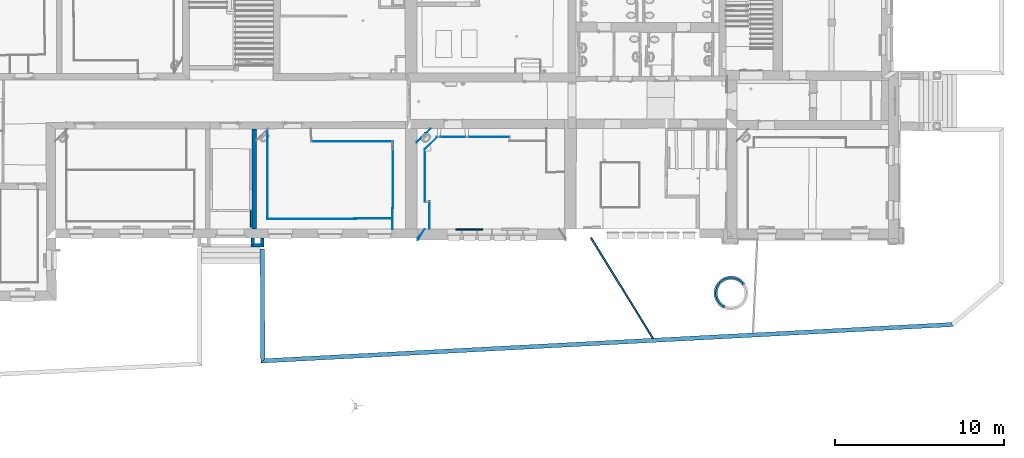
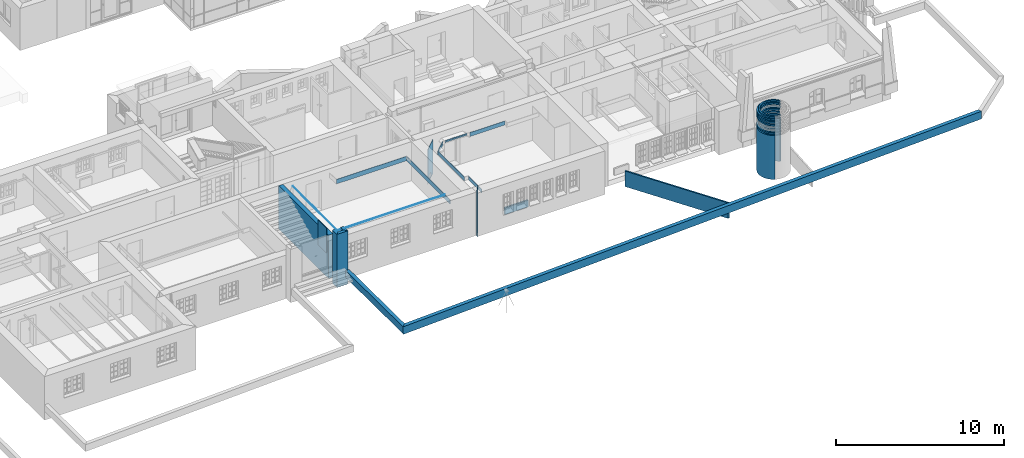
# One storey, part 36 of 196: 31 walls, 1 opening.
"""IFC2X3 building model written with IfcOpenShell, lengths in metres."""

from ifc_helpers import new_model, entity, si_unit, converted_unit, derived_unit, money_unit, point, direction, frame, frame_2d, origin_with_axes, origin_2d_with_axis, place, context, subcontext, project, spatial, polyline, circle_curve, parameter, trimmed, segment, composite_curve, rectangle, outline, extrude, material, layer, layer_set, layer_usage, type_object, element, save


model = new_model("IFC2X3")

# Units and contexts
model_context = context("Model", 3, precision=1e-05, world=origin_with_axes(), true_north=direction((0.0, 1.0)))
body_context = subcontext(model_context, "Body", "Model", "MODEL_VIEW")
ifc_project = project(units=[si_unit("LENGTHUNIT", "METRE"), si_unit("AREAUNIT", "SQUARE_METRE"), si_unit("VOLUMEUNIT", "CUBIC_METRE"), converted_unit("PLANEANGLEUNIT", "DEGREE", entity("IfcPlaneAngleMeasure", 0.0174532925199), si_unit("PLANEANGLEUNIT", "RADIAN"), dimensions=[0, 0, 0, 0, 0, 0, 0]), money_unit("EUR"), converted_unit("TIMEUNIT", "Year", entity("IfcTimeMeasure", 31556926.0), si_unit("TIMEUNIT", "SECOND"), dimensions=[0, 0, 1, 0, 0, 0, 0]), si_unit("MASSUNIT", "GRAM", prefix="KILO"), si_unit("THERMODYNAMICTEMPERATUREUNIT", "DEGREE_CELSIUS"), si_unit("LUMINOUSINTENSITYUNIT", "LUMEN"), si_unit("ENERGYUNIT", "JOULE", prefix="MEGA"), derived_unit("THERMALCONDUCTANCEUNIT", [(si_unit("POWERUNIT", "WATT"), 1), (si_unit("LENGTHUNIT", "METRE"), -1), (si_unit("THERMODYNAMICTEMPERATUREUNIT", "KELVIN"), -1)]), derived_unit("SPECIFICHEATCAPACITYUNIT", [(si_unit("ENERGYUNIT", "JOULE"), 1), (si_unit("MASSUNIT", "GRAM", prefix="KILO"), -1), (si_unit("THERMODYNAMICTEMPERATUREUNIT", "KELVIN"), -1)]), derived_unit("MASSDENSITYUNIT", [(si_unit("MASSUNIT", "GRAM", prefix="KILO"), 1), (si_unit("VOLUMEUNIT", "CUBIC_METRE"), -1)])], contexts=[model_context])

# Site, building, storey
site_placement = place(None, origin_with_axes())
site = spatial("IfcSite", under=ifc_project, at=site_placement, Name="Gelände", CompositionType="ELEMENT")
building_placement = place(site_placement, origin_with_axes())
building = spatial("IfcBuilding", under=site, at=building_placement, Name="Gebäude", CompositionType="ELEMENT")
storey_placement = place(building_placement, frame((0.0, 0.0, -3.0), z_axis=(0.0, 0.0, 1.0), x_axis=(1.0, 0.0, 0.0)))
storey = spatial("IfcBuildingStorey", under=building, at=storey_placement, Name="KELLERGESCHOSS", CompositionType="ELEMENT", Elevation=-3.0)

# Walls
ifc_material_1 = material(Name="05_ALLGEMEIN - TRAGENDE BAUTEILE")
ifc_layer_1 = layer(ifc_material_1, 0.2, ventilated="UNKNOWN")
ifc_layer_set_1 = layer_set([ifc_layer_1], Name="05_ALLGEMEIN - TRAGENDE BAUTEILE 0.2")
ifc_layer_usage_1 = layer_usage(ifc_layer_set_1, "AXIS2", "NEGATIVE", 0.2)
wall_type_1 = type_object("IfcWallType", Name="05_ALLGEMEIN - TRAGENDE BAUTEILE 200", PredefinedType="ELEMENTEDWALL")
wall_1_placement = place(storey_placement, frame((-6.19998406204, 9.93984522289, -0.36), z_axis=(0.0, 0.0, 1.0), x_axis=(0.0219314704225, -0.999759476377, 0.0)))
element("IfcWallStandardCase", 1, at=wall_1_placement, inside=storey, type_object=wall_type_1, material=ifc_layer_usage_1, Name="Wand-032", ObjectType="ELEMENTEDWALL", context=body_context, shape_type="SweptSolid", body=[
    extrude(outline(polyline([(0.0, 0.0), (0.531233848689, 0.0), (0.335496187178, 0.2), (0.00437228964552, 0.2), (0.0, 0.0)])), origin_with_axes(), (0.0, 0.0, 1.0), 3.861435),
])
ifc_layer_2 = layer(ifc_material_1, 0.4, ventilated="UNKNOWN")
ifc_layer_set_2 = layer_set([ifc_layer_2], Name="05_ALLGEMEIN - TRAGENDE BAUTEILE 0.4")
ifc_layer_usage_2 = layer_usage(ifc_layer_set_2, "AXIS2", "NEGATIVE", 0.4)
wall_type_2 = type_object("IfcWallType", Name="05_ALLGEMEIN - TRAGENDE BAUTEILE 400", PredefinedType="ELEMENTEDWALL")
wall_2_placement = place(storey_placement, frame((3.68062058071, 9.94058886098, -0.36), z_axis=(0.0, 0.0, 1.0), x_axis=(-0.00239001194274, -0.999997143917, 0.0)))
element("IfcWallStandardCase", 2, at=wall_2_placement, inside=storey, type_object=wall_type_2, material=ifc_layer_usage_2, Name="Wand-031", ObjectType="ELEMENTEDWALL", context=body_context, shape_type="SweptSolid", body=[
    extrude(outline(polyline([(-0.511443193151, 0.388939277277), (-1.03300346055e-09, 0.0), (0.131170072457, 0.0), (-0.511443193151, 0.388939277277)])), origin_with_axes(), (0.0, 0.0, 1.0), 3.15),
])
ifc_layer_3 = layer(ifc_material_1, 0.1, ventilated="UNKNOWN")
ifc_layer_set_3 = layer_set([ifc_layer_3], Name="05_ALLGEMEIN - TRAGENDE BAUTEILE 0.1")
ifc_layer_usage_3 = layer_usage(ifc_layer_set_3, "AXIS2", "NEGATIVE", 0.1)
wall_type_3 = type_object("IfcWallType", Name="05_ALLGEMEIN - TRAGENDE BAUTEILE 100", PredefinedType="ELEMENTEDWALL")
wall_3_placement = place(storey_placement, frame((23.0245767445, 7.24361396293, 3.79957866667), z_axis=(0.0, 0.0, 1.0), x_axis=(-0.566462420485, 0.824087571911, 0.0)))
element("IfcWallStandardCase", 3, at=wall_3_placement, inside=storey, type_object=wall_type_3, material=ifc_layer_usage_3, Name="Wand-032", ObjectType="ELEMENTEDWALL", context=body_context, shape_type="SweptSolid", body=[
    extrude(outline(composite_curve([segment(trimmed(circle_curve(frame_2d((0.0, 1.00607070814), x_axis=(0.0, -1.0)), 1.00607070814), [point((0.0, 0.0)), parameter(0.0)], [point((-0.503020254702, 1.87736221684)), parameter(209.999007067)], True, "CARTESIAN"), True, "CONTINUOUS"), segment(polyline([(-0.503020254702, 1.87736221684), (-0.453021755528, 1.79075880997)]), True, "CONTINUOUS"), segment(trimmed(circle_curve(frame_2d((0.0, 1.00607070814), x_axis=(0.0, -1.0)), 0.906070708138), [point((-0.453021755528, 1.79075880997)), parameter(209.999007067)], [point((0.0, 0.1)), parameter(0.0)], False, "CARTESIAN"), True, "CONTINUOUS"), segment(polyline([(0.0, 0.1), (0.0, 0.0)]), True, "CONTINUOUS")], self_intersect=False)), origin_with_axes(), (0.0, 0.0, 1.0), 0.1),
])
ifc_layer_usage_4 = layer_usage(ifc_layer_set_3, "AXIS2", "NEGATIVE", 0.1)
wall_4_placement = place(storey_placement, frame((23.0245767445, 7.24361396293, 3.99957866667), z_axis=(0.0, 0.0, 1.0), x_axis=(-0.566462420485, 0.824087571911, 0.0)))
element("IfcWallStandardCase", 4, at=wall_4_placement, inside=storey, type_object=wall_type_3, material=ifc_layer_usage_4, Name="Wand-032", ObjectType="ELEMENTEDWALL", context=body_context, shape_type="SweptSolid", body=[
    extrude(outline(composite_curve([segment(trimmed(circle_curve(frame_2d((0.0, 1.00607070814), x_axis=(0.0, -1.0)), 1.00607070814), [point((0.0, 0.0)), parameter(0.0)], [point((-0.503020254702, 1.87736221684)), parameter(209.999007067)], True, "CARTESIAN"), True, "CONTINUOUS"), segment(polyline([(-0.503020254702, 1.87736221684), (-0.453021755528, 1.79075880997)]), True, "CONTINUOUS"), segment(trimmed(circle_curve(frame_2d((0.0, 1.00607070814), x_axis=(0.0, -1.0)), 0.906070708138), [point((-0.453021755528, 1.79075880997)), parameter(209.999007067)], [point((0.0, 0.1)), parameter(0.0)], False, "CARTESIAN"), True, "CONTINUOUS"), segment(polyline([(0.0, 0.1), (0.0, 0.0)]), True, "CONTINUOUS")], self_intersect=False)), origin_with_axes(), (0.0, 0.0, 1.0), 0.1),
])
ifc_layer_usage_5 = layer_usage(ifc_layer_set_3, "AXIS2", "NEGATIVE", 0.1)
wall_5_placement = place(storey_placement, frame((23.0245767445, 7.24361396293, 4.19957866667), z_axis=(0.0, 0.0, 1.0), x_axis=(-0.566462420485, 0.824087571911, 0.0)))
element("IfcWallStandardCase", 5, at=wall_5_placement, inside=storey, type_object=wall_type_3, material=ifc_layer_usage_5, Name="Wand-032", ObjectType="ELEMENTEDWALL", context=body_context, shape_type="SweptSolid", body=[
    extrude(outline(composite_curve([segment(trimmed(circle_curve(frame_2d((0.0, 1.00607070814), x_axis=(0.0, -1.0)), 1.00607070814), [point((0.0, 0.0)), parameter(0.0)], [point((-0.503020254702, 1.87736221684)), parameter(209.999007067)], True, "CARTESIAN"), True, "CONTINUOUS"), segment(polyline([(-0.503020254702, 1.87736221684), (-0.453021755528, 1.79075880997)]), True, "CONTINUOUS"), segment(trimmed(circle_curve(frame_2d((0.0, 1.00607070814), x_axis=(0.0, -1.0)), 0.906070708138), [point((-0.453021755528, 1.79075880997)), parameter(209.999007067)], [point((0.0, 0.1)), parameter(0.0)], False, "CARTESIAN"), True, "CONTINUOUS"), segment(polyline([(0.0, 0.1), (0.0, 0.0)]), True, "CONTINUOUS")], self_intersect=False)), origin_with_axes(), (0.0, 0.0, 1.0), 0.1),
])
ifc_layer_usage_6 = layer_usage(ifc_layer_set_3, "AXIS2", "NEGATIVE", 0.1)
wall_6_placement = place(storey_placement, frame((23.0245767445, 7.24361396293, 3.19957866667), z_axis=(0.0, 0.0, 1.0), x_axis=(-0.566462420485, 0.824087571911, 0.0)))
element("IfcWallStandardCase", 6, at=wall_6_placement, inside=storey, type_object=wall_type_3, material=ifc_layer_usage_6, Name="Wand-032", ObjectType="ELEMENTEDWALL", context=body_context, shape_type="SweptSolid", body=[
    extrude(outline(composite_curve([segment(trimmed(circle_curve(frame_2d((0.0, 1.00607070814), x_axis=(0.0, -1.0)), 1.00607070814), [point((0.0, 0.0)), parameter(0.0)], [point((-0.503020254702, 1.87736221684)), parameter(209.999007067)], True, "CARTESIAN"), True, "CONTINUOUS"), segment(polyline([(-0.503020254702, 1.87736221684), (-0.453021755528, 1.79075880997)]), True, "CONTINUOUS"), segment(trimmed(circle_curve(frame_2d((0.0, 1.00607070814), x_axis=(0.0, -1.0)), 0.906070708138), [point((-0.453021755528, 1.79075880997)), parameter(209.999007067)], [point((0.0, 0.1)), parameter(0.0)], False, "CARTESIAN"), True, "CONTINUOUS"), segment(polyline([(0.0, 0.1), (0.0, 0.0)]), True, "CONTINUOUS")], self_intersect=False)), origin_with_axes(), (0.0, 0.0, 1.0), 0.1),
])
ifc_layer_usage_7 = layer_usage(ifc_layer_set_3, "AXIS2", "NEGATIVE", 0.1)
wall_7_placement = place(storey_placement, frame((23.0245767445, 7.24361396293, -0.0866233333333), z_axis=(0.0, 0.0, 1.0), x_axis=(-0.566462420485, 0.824087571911, 0.0)))
element("IfcWallStandardCase", 7, at=wall_7_placement, inside=storey, type_object=wall_type_3, material=ifc_layer_usage_7, Name="Wand-032", ObjectType="ELEMENTEDWALL", context=body_context, shape_type="SweptSolid", body=[
    extrude(outline(composite_curve([segment(trimmed(circle_curve(frame_2d((0.0, 1.00607070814), x_axis=(0.0, -1.0)), 1.00607070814), [point((0.0, 0.0)), parameter(0.0)], [point((-0.503020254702, 1.87736221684)), parameter(209.999007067)], True, "CARTESIAN"), True, "CONTINUOUS"), segment(polyline([(-0.503020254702, 1.87736221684), (-0.453021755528, 1.79075880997)]), True, "CONTINUOUS"), segment(trimmed(circle_curve(frame_2d((0.0, 1.00607070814), x_axis=(0.0, -1.0)), 0.906070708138), [point((-0.453021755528, 1.79075880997)), parameter(209.999007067)], [point((0.0, 0.1)), parameter(0.0)], False, "CARTESIAN"), True, "CONTINUOUS"), segment(polyline([(0.0, 0.1), (0.0, 0.0)]), True, "CONTINUOUS")], self_intersect=False)), origin_with_axes(), (0.0, 0.0, 1.0), 3.186202),
])
ifc_layer_usage_8 = layer_usage(ifc_layer_set_3, "AXIS2", "NEGATIVE", 0.1)
wall_8_placement = place(storey_placement, frame((13.8696564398, 9.91902660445, -0.36), z_axis=(0.0, 0.0, 1.0), x_axis=(0.524448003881, -0.851442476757, 0.0)))
element("IfcWallStandardCase", 8, at=wall_8_placement, inside=storey, type_object=wall_type_3, material=ifc_layer_usage_8, Name="Wand-038", ObjectType="ELEMENTEDWALL", context=body_context, shape_type="SweptSolid", body=[
    extrude(outline(polyline([(0.0, 0.0), (6.950225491, 0.0), (7.00477432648, 0.1), (0.0, 0.1), (0.0, 0.0)])), origin_with_axes(), (0.0, 0.0, 1.0), 1.126109),
])
ifc_layer_4 = layer(ifc_material_1, 0.250000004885, ventilated="UNKNOWN")
ifc_layer_set_4 = layer_set([ifc_layer_4], Name="05_ALLGEMEIN - TRAGENDE BAUTEILE 0.25")
ifc_layer_usage_9 = layer_usage(ifc_layer_set_4, "AXIS2", "POSITIVE", 0.0)
wall_type_4 = type_object("IfcWallType", Name="05_ALLGEMEIN - TRAGENDE BAUTEILE 250", PredefinedType="ELEMENTEDWALL")
wall_9_placement = place(storey_placement, frame((35.2243087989, 4.93536301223, 0.212), z_axis=(0.0, 0.0, 1.0), x_axis=(-0.998611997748, -0.0526695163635, 0.0)))
element("IfcWallStandardCase", 9, at=wall_9_placement, inside=storey, type_object=wall_type_4, material=ifc_layer_usage_9, Name="Wand-040", ObjectType="ELEMENTEDWALL", context=body_context, shape_type="SweptSolid", body=[
    extrude(outline(polyline([(0.0, 0.0), (40.6477655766, 0.0), (40.9097281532, 0.25), (-0.0838657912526, 0.25), (0.0, 0.0)])), origin_with_axes(), (0.0, 0.0, 1.0), 0.55),
])
ifc_layer_usage_10 = layer_usage(ifc_layer_set_4, "AXIS2", "NEGATIVE", 0.0)
wall_10_placement = place(storey_placement, frame((-5.40581075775, 9.28887103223, 0.262), z_axis=(0.0, 0.0, 1.0), x_axis=(0.00597013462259, -0.999982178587, 0.0)))
element("IfcWallStandardCase", 10, at=wall_10_placement, inside=storey, type_object=wall_type_4, material=ifc_layer_usage_10, Name="Wand-041", ObjectType="ELEMENTEDWALL", context=body_context, shape_type="SweptSolid", body=[
    extrude(outline(polyline([(0.0, -0.25), (6.75648449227, -0.25), (6.49452191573, 0.0), (0.0, 0.0), (0.0, -0.25)])), origin_with_axes(), (0.0, 0.0, 1.0), 0.5),
])
ifc_layer_5 = layer(ifc_material_1, 0.29, ventilated="UNKNOWN")
ifc_layer_set_5 = layer_set([ifc_layer_5], Name="05_ALLGEMEIN - TRAGENDE BAUTEILE 0.29")
ifc_layer_usage_11 = layer_usage(ifc_layer_set_5, "AXIS2", "POSITIVE", 0.0)
wall_type_5 = type_object("IfcWallType", Name="05_ALLGEMEIN - TRAGENDE BAUTEILE 290", PredefinedType="ELEMENTEDWALL")
wall_11_placement = place(storey_placement, frame((-6.14812390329, 16.8014977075, -0.36), z_axis=(0.0, 0.0, 1.0), x_axis=(0.000177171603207, -0.999999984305, 0.0)))
element("IfcWallStandardCase", 11, at=wall_11_placement, inside=storey, type_object=wall_type_5, material=ifc_layer_usage_11, Name="Wand-035", ObjectType="ELEMENTEDWALL", context=body_context, shape_type="SweptSolid", body=[
    extrude(outline(polyline([(0.410000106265, 0.0), (6.33664859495, 0.0), (6.33667814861, 0.29), (0.409791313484, 0.29), (0.410000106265, 0.0)])), origin_with_axes(), (0.0, 0.0, 1.0), 3.15),
])

# Wall, opening
ifc_material_2 = material(Name="43_Gipskarton")
ifc_layer_6 = layer(ifc_material_2, 0.03, ventilated="UNKNOWN")
ifc_layer_set_6 = layer_set([ifc_layer_6], Name="43_Gipskarton 0.03")
ifc_layer_usage_12 = layer_usage(ifc_layer_set_6, "AXIS2", "NEGATIVE", 0.03)
wall_type_6 = type_object("IfcWallType", Name="43_Gipskarton 30", PredefinedType="ELEMENTEDWALL")
wall_12_placement = place(storey_placement, frame((3.61046248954, 15.574769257, -0.04), z_axis=(0.0, 0.0, 1.0), x_axis=(0.709526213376, 0.704679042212, 0.0)))
wall_12 = element("IfcWallStandardCase", 12, at=wall_12_placement, inside=storey, type_object=wall_type_6, material=ifc_layer_usage_12, Name="Wand-034", ObjectType="ELEMENTEDWALL", context=body_context, shape_type="SweptSolid", body=[
    extrude(outline(polyline([(0.0, 0.0), (1.17334228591, 0.0), (1.14303808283, 0.03), (0.029743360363, 0.03), (0.0, 0.0)])), origin_with_axes(), (0.0, 0.0, 1.0), 2.48),
])
opening_placement = place(wall_12_placement, frame((0.579997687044, 0.0, 0.112300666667), z_axis=(0.0, 0.0, 1.0), x_axis=(1.0, 0.0, 0.0)))
element("IfcOpeningElement", 13, at=opening_placement, cuts=wall_12, Name="Tür-022", context=body_context, shape_type="SweptSolid", body=[
    extrude(rectangle(XDim=0.306104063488, YDim=0.293476, at=origin_2d_with_axis()), frame((0.0, 0.03, 0.146738), z_axis=(0.0, -1.0, 0.0), x_axis=(-1.0, 0.0, 0.0)), (0.0, 0.0, 1.0), 0.09),
])

# Walls
ifc_layer_usage_13 = layer_usage(ifc_layer_set_6, "AXIS2", "NEGATIVE", 0.0)
wall_13_placement = place(storey_placement, frame((-5.19969785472, 16.3626432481, 2.43), z_axis=(0.0, 0.0, 1.0), x_axis=(-0.000308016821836, -0.999999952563, 0.0)))
element("IfcWallStandardCase", 14, at=wall_13_placement, inside=storey, type_object=wall_type_6, material=ifc_layer_usage_13, Name="Wand-060", ObjectType="ELEMENTEDWALL", context=body_context, shape_type="SweptSolid", body=[
    extrude(outline(polyline([(0.0303318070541, -0.03), (5.31714866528, -0.03), (5.28708466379, 0.0), (0.0, 0.0), (0.0303318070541, -0.03)])), origin_with_axes(), (0.0, 0.0, 1.0), 0.03),
])
ifc_layer_usage_14 = layer_usage(ifc_layer_set_6, "AXIS2", "NEGATIVE", 0.0)
wall_14_placement = place(storey_placement, frame((-5.20132636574, 11.0755588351, 2.43), z_axis=(0.0, 0.0, 1.0), x_axis=(0.999998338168, 0.00182309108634, 0.0)))
element("IfcWallStandardCase", 15, at=wall_14_placement, inside=storey, type_object=wall_type_6, material=ifc_layer_usage_14, Name="Wand-061", ObjectType="ELEMENTEDWALL", context=body_context, shape_type="SweptSolid", body=[
    extrude(outline(polyline([(-0.030064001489, -0.03), (7.37356726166, -0.03), (7.37374219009, 0.0), (0.0, 0.0), (-0.030064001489, -0.03)])), origin_with_axes(), (0.0, 0.0, 1.0), 0.03),
])
ifc_layer_usage_15 = layer_usage(ifc_layer_set_6, "AXIS2", "NEGATIVE", 0.0)
wall_15_placement = place(storey_placement, frame((2.16988455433, 10.4604751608, 2.14), z_axis=(0.0, 0.0, 1.0), x_axis=(0.00400777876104, 0.999991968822, 0.0)))
element("IfcWallStandardCase", 16, at=wall_15_placement, inside=storey, type_object=wall_type_6, material=ifc_layer_usage_15, Name="Wand-062", ObjectType="ELEMENTEDWALL", context=body_context, shape_type="SweptSolid", body=[
    extrude(outline(polyline([(0.0, -0.03), (5.19547315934, -0.03), (5.16535736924, 0.0), (0.0, 0.0), (0.0, -0.03)])), origin_with_axes(), (0.0, 0.0, 1.0), 0.32),
])
ifc_layer_usage_16 = layer_usage(ifc_layer_set_6, "AXIS2", "NEGATIVE", 0.0)
wall_16_placement = place(storey_placement, frame((2.19058616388, 15.6257910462, 2.14), z_axis=(0.0, 0.0, 1.0), x_axis=(-0.999999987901, 0.000155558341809, 0.0)))
element("IfcWallStandardCase", 17, at=wall_16_placement, inside=storey, type_object=wall_type_6, material=ifc_layer_usage_16, Name="Wand-063", ObjectType="ELEMENTEDWALL", context=body_context, shape_type="SweptSolid", body=[
    extrude(outline(polyline([(-0.0301157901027, -0.03), (4.80096117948, -0.03), (4.83040848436, 0.0), (0.0, 0.0), (-0.0301157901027, -0.03)])), origin_with_axes(), (0.0, 0.0, 1.0), 0.32),
])
ifc_layer_usage_17 = layer_usage(ifc_layer_set_6, "AXIS2", "NEGATIVE", 0.0)
wall_17_placement = place(storey_placement, frame((9.08074599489, 15.8971173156, 2.15545783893), z_axis=(0.0, 0.0, 1.0), x_axis=(-0.999998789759, -0.00155578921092, 0.0)))
element("IfcWallStandardCase", 18, at=wall_17_placement, inside=storey, type_object=wall_type_6, material=ifc_layer_usage_17, Name="Wand-067", ObjectType="ELEMENTEDWALL", context=body_context, shape_type="SweptSolid", body=[
    extrude(outline(polyline([(-0.0301379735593, -0.03), (2.40129116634, -0.03), (2.40129116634, 0.0), (0.0, 0.0), (-0.0301379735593, -0.03)])), origin_with_axes(), (0.0, 0.0, 1.0), 0.284542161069),
])
ifc_layer_usage_18 = layer_usage(ifc_layer_set_6, "AXIS2", "NEGATIVE", 0.0)
wall_18_placement = place(storey_placement, frame((6.4800885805, 15.8930712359, 2.32), z_axis=(0.0, 0.0, 1.0), x_axis=(-0.999998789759, -0.00155578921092, 0.0)))
element("IfcWallStandardCase", 19, at=wall_18_placement, inside=storey, type_object=wall_type_6, material=ifc_layer_usage_18, Name="Wand-067", ObjectType="ELEMENTEDWALL", context=body_context, shape_type="SweptSolid", body=[
    extrude(outline(polyline([(0.0, -0.03), (1.48246077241, -0.03), (1.48246077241, 0.0), (0.0, 0.0), (0.0, -0.03)])), origin_with_axes(), (0.0, 0.0, 1.0), 0.12),
])
ifc_layer_usage_19 = layer_usage(ifc_layer_set_6, "AXIS2", "NEGATIVE", 0.0)
wall_19_placement = place(storey_placement, frame((4.81853001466, 15.8904861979, 2.18), z_axis=(0.0, 0.0, 1.0), x_axis=(-0.711544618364, -0.702640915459, 0.0)))
element("IfcWallStandardCase", 20, at=wall_19_placement, inside=storey, type_object=wall_type_6, material=ifc_layer_usage_19, Name="Wand-068", ObjectType="ELEMENTEDWALL", context=body_context, shape_type="SweptSolid", body=[
    extrude(outline(polyline([(-0.0122886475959, -0.03), (1.00664492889, -0.03), (0.994077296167, 0.0), (0.0, 0.0), (-0.0122886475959, -0.03)])), origin_with_axes(), (0.0, 0.0, 1.0), 0.26),
])
ifc_layer_usage_20 = layer_usage(ifc_layer_set_6, "AXIS2", "NEGATIVE", 0.0)
wall_20_placement = place(storey_placement, frame((4.11119966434, 15.1920068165, 2.18), z_axis=(0.0, 0.0, 1.0), x_axis=(0.00172694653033, -0.999998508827, 0.0)))
element("IfcWallStandardCase", 21, at=wall_20_placement, inside=storey, type_object=wall_type_6, material=ifc_layer_usage_20, Name="Wand-069", ObjectType="ELEMENTEDWALL", context=body_context, shape_type="SweptSolid", body=[
    extrude(outline(polyline([(-0.0125676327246, -0.03), (3.1318552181, -0.03), (3.10179593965, 0.0), (0.0, 0.0), (-0.0125676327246, -0.03)])), origin_with_axes(), (0.0, 0.0, 1.0), 0.26),
])
ifc_layer_usage_21 = layer_usage(ifc_layer_set_6, "AXIS2", "NEGATIVE", 0.0)
wall_21_placement = place(storey_placement, frame((4.38757851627, 12.0912185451, 2.18), z_axis=(0.0, 0.0, 1.0), x_axis=(-0.00152869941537, -0.999998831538, 0.0)))
element("IfcWallStandardCase", 22, at=wall_21_placement, inside=storey, type_object=wall_type_6, material=ifc_layer_usage_21, Name="Wand-071", ObjectType="ELEMENTEDWALL", context=body_context, shape_type="SweptSolid", body=[
    extrude(outline(polyline([(0.0301573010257, -0.03), (1.6219239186, -0.03), (1.6219239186, 0.0), (0.0, 0.0), (0.0301573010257, -0.03)])), origin_with_axes(), (0.0, 0.0, 1.0), 0.26),
])
ifc_material_3 = material(Name="01_ALLGEMEIN - BAUTEIL")
ifc_layer_7 = layer(ifc_material_3, 0.105, ventilated="UNKNOWN")
ifc_layer_set_7 = layer_set([ifc_layer_7], Name="01_ALLGEMEIN - BAUTEIL 0.105")
ifc_layer_usage_22 = layer_usage(ifc_layer_set_7, "AXIS2", "NEGATIVE", 0.105)
wall_type_7 = type_object("IfcWallType", Name="01_ALLGEMEIN - BAUTEIL 105", PredefinedType="ELEMENTEDWALL")
wall_22_placement = place(storey_placement, frame((7.50408036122, 10.4878806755, 0.104421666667), z_axis=(0.0, 0.0, 1.0), x_axis=(-0.999994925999, -0.00318558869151, 0.0)))
element("IfcWallStandardCase", 23, at=wall_22_placement, inside=storey, type_object=wall_type_7, material=ifc_layer_usage_22, Name="Wand-035", ObjectType="ELEMENTEDWALL", context=body_context, shape_type="SweptSolid", body=[
    extrude(outline(polyline([(0.0, 0.0), (1.59342253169, 0.0), (1.59342253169, 0.105), (0.0, 0.105), (0.0, 0.0)])), origin_with_axes(), (0.0, 0.0, 1.0), 0.498833),
])
ifc_layer_8 = layer(ifc_material_3, 0.065, ventilated="UNKNOWN")
ifc_layer_set_8 = layer_set([ifc_layer_8], Name="01_ALLGEMEIN - BAUTEIL 0.065")
ifc_layer_usage_23 = layer_usage(ifc_layer_set_8, "AXIS2", "NEGATIVE", 0.065)
wall_type_8 = type_object("IfcWallType", Name="01_ALLGEMEIN - BAUTEIL 65", PredefinedType="ELEMENTEDWALL")
wall_23_placement = place(storey_placement, frame((-6.24760502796, 11.5577597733, 1.47594966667), z_axis=(0.0, 0.0, 1.0), x_axis=(0.00354043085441, -0.999993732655, 0.0)))
element("IfcWallStandardCase", 24, at=wall_23_placement, inside=storey, type_object=wall_type_8, material=ifc_layer_usage_23, Name="Wand-036", ObjectType="ELEMENTEDWALL", context=body_context, shape_type="SweptSolid", body=[
    extrude(outline(polyline([(0.0, 0.0), (0.98585845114, 0.0), (0.98585845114, 0.065), (0.0, 0.065), (0.0, 0.0)])), origin_with_axes(), (0.0, 0.0, 1.0), 1.797355),
])
ifc_layer_9 = layer(ifc_material_3, 0.2, ventilated="UNKNOWN")
ifc_layer_set_9 = layer_set([ifc_layer_9], Name="01_ALLGEMEIN - BAUTEIL 0.2")
ifc_layer_usage_24 = layer_usage(ifc_layer_set_9, "AXIS2", "NEGATIVE", 0.2)
wall_type_9 = type_object("IfcWallType", Name="01_ALLGEMEIN - BAUTEIL 200", PredefinedType="ELEMENTEDWALL")
wall_24_placement = place(storey_placement, frame((-5.43161314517, 9.4090364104, -0.36), z_axis=(0.0, 0.0, 1.0), x_axis=(-7.52624069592e-05, 0.999999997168, 0.0)))
element("IfcWallStandardCase", 25, at=wall_24_placement, inside=storey, type_object=wall_type_9, material=ifc_layer_usage_24, Name="Wand-032", ObjectType="ELEMENTEDWALL", context=body_context, shape_type="SweptSolid", body=[
    extrude(outline(polyline([(0.0, 0.0), (0.530866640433, 0.0), (0.530866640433, 0.2), (0.199936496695, 0.2), (0.0, 0.0)])), origin_with_axes(), (0.0, 0.0, 1.0), 3.861435),
])
ifc_layer_usage_25 = layer_usage(ifc_layer_set_9, "AXIS2", "NEGATIVE", 0.2)
wall_25_placement = place(storey_placement, frame((-6.1883333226, 9.40873914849, -0.36), z_axis=(0.0, 0.0, 1.0), x_axis=(0.999999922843, 0.000392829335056, 0.0)))
element("IfcWallStandardCase", 26, at=wall_25_placement, inside=storey, type_object=wall_type_9, material=ifc_layer_usage_25, Name="Wand-033", ObjectType="ELEMENTEDWALL", context=body_context, shape_type="SweptSolid", body=[
    extrude(outline(polyline([(0.0, 0.0), (0.756720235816, 0.0), (0.556783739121, 0.2), (0.195737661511, 0.2), (0.0, 0.0)])), origin_with_axes(), (0.0, 0.0, 1.0), 3.861435),
])
ifc_layer_10 = layer(ifc_material_3, 0.1, ventilated="UNKNOWN")
ifc_layer_set_10 = layer_set([ifc_layer_10], Name="01_ALLGEMEIN - BAUTEIL 0.1")
ifc_layer_usage_26 = layer_usage(ifc_layer_set_10, "AXIS2", "NEGATIVE", 0.1)
wall_type_10 = type_object("IfcWallType", Name="01_ALLGEMEIN - BAUTEIL 100", PredefinedType="ELEMENTEDWALL")
wall_26_placement = place(storey_placement, frame((22.9421679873, 7.18696772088, 4.09957866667), z_axis=(0.0, 0.0, 1.0), x_axis=(-0.566462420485, 0.824087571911, 0.0)))
element("IfcWallStandardCase", 27, at=wall_26_placement, inside=storey, type_object=wall_type_10, material=ifc_layer_usage_26, Name="Wand-032", ObjectType="ELEMENTEDWALL", context=body_context, shape_type="SweptSolid", body=[
    extrude(outline(composite_curve([segment(trimmed(circle_curve(frame_2d((0.0, 0.906070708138), x_axis=(0.0, -1.0)), 0.906070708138), [point((0.0, 0.0)), parameter(0.0)], [point((-0.453021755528, 1.69075880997)), parameter(209.999007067)], True, "CARTESIAN"), True, "CONTINUOUS"), segment(polyline([(-0.453021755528, 1.69075880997), (-0.403023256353, 1.60415540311)]), True, "CONTINUOUS"), segment(trimmed(circle_curve(frame_2d((0.0, 0.906070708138), x_axis=(0.0, -1.0)), 0.806070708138), [point((-0.403023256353, 1.60415540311)), parameter(209.999007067)], [point((0.0, 0.1)), parameter(0.0)], False, "CARTESIAN"), True, "CONTINUOUS"), segment(polyline([(0.0, 0.1), (0.0, 0.0)]), True, "CONTINUOUS")], self_intersect=False)), origin_with_axes(), (0.0, 0.0, 1.0), 0.1),
])
ifc_layer_usage_27 = layer_usage(ifc_layer_set_10, "AXIS2", "NEGATIVE", 0.1)
wall_27_placement = place(storey_placement, frame((22.9421679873, 7.18696772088, 4.29957866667), z_axis=(0.0, 0.0, 1.0), x_axis=(-0.566462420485, 0.824087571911, 0.0)))
element("IfcWallStandardCase", 28, at=wall_27_placement, inside=storey, type_object=wall_type_10, material=ifc_layer_usage_27, Name="Wand-032", ObjectType="ELEMENTEDWALL", context=body_context, shape_type="SweptSolid", body=[
    extrude(outline(composite_curve([segment(trimmed(circle_curve(frame_2d((0.0, 0.906070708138), x_axis=(0.0, -1.0)), 0.906070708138), [point((0.0, 0.0)), parameter(0.0)], [point((-0.453021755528, 1.69075880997)), parameter(209.999007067)], True, "CARTESIAN"), True, "CONTINUOUS"), segment(polyline([(-0.453021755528, 1.69075880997), (-0.403023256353, 1.60415540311)]), True, "CONTINUOUS"), segment(trimmed(circle_curve(frame_2d((0.0, 0.906070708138), x_axis=(0.0, -1.0)), 0.806070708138), [point((-0.403023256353, 1.60415540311)), parameter(209.999007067)], [point((0.0, 0.1)), parameter(0.0)], False, "CARTESIAN"), True, "CONTINUOUS"), segment(polyline([(0.0, 0.1), (0.0, 0.0)]), True, "CONTINUOUS")], self_intersect=False)), origin_with_axes(), (0.0, 0.0, 1.0), 0.1),
])
ifc_layer_usage_28 = layer_usage(ifc_layer_set_10, "AXIS2", "NEGATIVE", 0.1)
wall_28_placement = place(storey_placement, frame((22.9421679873, 7.18696772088, 3.69957866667), z_axis=(0.0, 0.0, 1.0), x_axis=(-0.566462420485, 0.824087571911, 0.0)))
element("IfcWallStandardCase", 29, at=wall_28_placement, inside=storey, type_object=wall_type_10, material=ifc_layer_usage_28, Name="Wand-032", ObjectType="ELEMENTEDWALL", context=body_context, shape_type="SweptSolid", body=[
    extrude(outline(composite_curve([segment(trimmed(circle_curve(frame_2d((0.0, 0.906070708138), x_axis=(0.0, -1.0)), 0.906070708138), [point((0.0, 0.0)), parameter(0.0)], [point((-0.453021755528, 1.69075880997)), parameter(209.999007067)], True, "CARTESIAN"), True, "CONTINUOUS"), segment(polyline([(-0.453021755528, 1.69075880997), (-0.403023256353, 1.60415540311)]), True, "CONTINUOUS"), segment(trimmed(circle_curve(frame_2d((0.0, 0.906070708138), x_axis=(0.0, -1.0)), 0.806070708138), [point((-0.403023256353, 1.60415540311)), parameter(209.999007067)], [point((0.0, 0.1)), parameter(0.0)], False, "CARTESIAN"), True, "CONTINUOUS"), segment(polyline([(0.0, 0.1), (0.0, 0.0)]), True, "CONTINUOUS")], self_intersect=False)), origin_with_axes(), (0.0, 0.0, 1.0), 0.1),
])
ifc_layer_usage_29 = layer_usage(ifc_layer_set_10, "AXIS2", "NEGATIVE", 0.1)
wall_29_placement = place(storey_placement, frame((22.9421679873, 7.18696772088, 3.09957866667), z_axis=(0.0, 0.0, 1.0), x_axis=(-0.566462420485, 0.824087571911, 0.0)))
element("IfcWallStandardCase", 30, at=wall_29_placement, inside=storey, type_object=wall_type_10, material=ifc_layer_usage_29, Name="Wand-032", ObjectType="ELEMENTEDWALL", context=body_context, shape_type="SweptSolid", body=[
    extrude(outline(composite_curve([segment(trimmed(circle_curve(frame_2d((0.0, 0.906070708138), x_axis=(0.0, -1.0)), 0.906070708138), [point((0.0, 0.0)), parameter(0.0)], [point((-0.453021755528, 1.69075880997)), parameter(209.999007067)], True, "CARTESIAN"), True, "CONTINUOUS"), segment(polyline([(-0.453021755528, 1.69075880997), (-0.403023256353, 1.60415540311)]), True, "CONTINUOUS"), segment(trimmed(circle_curve(frame_2d((0.0, 0.906070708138), x_axis=(0.0, -1.0)), 0.806070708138), [point((-0.403023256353, 1.60415540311)), parameter(209.999007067)], [point((0.0, 0.1)), parameter(0.0)], False, "CARTESIAN"), True, "CONTINUOUS"), segment(polyline([(0.0, 0.1), (0.0, 0.0)]), True, "CONTINUOUS")], self_intersect=False)), origin_with_axes(), (0.0, 0.0, 1.0), 0.1),
])
ifc_layer_usage_30 = layer_usage(ifc_layer_set_10, "AXIS2", "NEGATIVE", 0.1)
wall_30_placement = place(storey_placement, frame((22.9421679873, 7.18696772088, 3.29957866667), z_axis=(0.0, 0.0, 1.0), x_axis=(-0.566462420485, 0.824087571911, 0.0)))
element("IfcWallStandardCase", 31, at=wall_30_placement, inside=storey, type_object=wall_type_10, material=ifc_layer_usage_30, Name="Wand-032", ObjectType="ELEMENTEDWALL", context=body_context, shape_type="SweptSolid", body=[
    extrude(outline(composite_curve([segment(trimmed(circle_curve(frame_2d((0.0, 0.906070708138), x_axis=(0.0, -1.0)), 0.906070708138), [point((0.0, 0.0)), parameter(0.0)], [point((-0.453021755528, 1.69075880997)), parameter(209.999007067)], True, "CARTESIAN"), True, "CONTINUOUS"), segment(polyline([(-0.453021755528, 1.69075880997), (-0.403023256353, 1.60415540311)]), True, "CONTINUOUS"), segment(trimmed(circle_curve(frame_2d((0.0, 0.906070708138), x_axis=(0.0, -1.0)), 0.806070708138), [point((-0.403023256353, 1.60415540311)), parameter(209.999007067)], [point((0.0, 0.1)), parameter(0.0)], False, "CARTESIAN"), True, "CONTINUOUS"), segment(polyline([(0.0, 0.1), (0.0, 0.0)]), True, "CONTINUOUS")], self_intersect=False)), origin_with_axes(), (0.0, 0.0, 1.0), 0.1),
])
ifc_layer_usage_31 = layer_usage(ifc_layer_set_10, "AXIS2", "NEGATIVE", 0.1)
wall_31_placement = place(storey_placement, frame((22.9421679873, 7.18696772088, 3.49957866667), z_axis=(0.0, 0.0, 1.0), x_axis=(-0.566462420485, 0.824087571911, 0.0)))
element("IfcWallStandardCase", 32, at=wall_31_placement, inside=storey, type_object=wall_type_10, material=ifc_layer_usage_31, Name="Wand-032", ObjectType="ELEMENTEDWALL", context=body_context, shape_type="SweptSolid", body=[
    extrude(outline(composite_curve([segment(trimmed(circle_curve(frame_2d((0.0, 0.906070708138), x_axis=(0.0, -1.0)), 0.906070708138), [point((0.0, 0.0)), parameter(0.0)], [point((-0.453021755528, 1.69075880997)), parameter(209.999007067)], True, "CARTESIAN"), True, "CONTINUOUS"), segment(polyline([(-0.453021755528, 1.69075880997), (-0.403023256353, 1.60415540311)]), True, "CONTINUOUS"), segment(trimmed(circle_curve(frame_2d((0.0, 0.906070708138), x_axis=(0.0, -1.0)), 0.806070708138), [point((-0.403023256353, 1.60415540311)), parameter(209.999007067)], [point((0.0, 0.1)), parameter(0.0)], False, "CARTESIAN"), True, "CONTINUOUS"), segment(polyline([(0.0, 0.1), (0.0, 0.0)]), True, "CONTINUOUS")], self_intersect=False)), origin_with_axes(), (0.0, 0.0, 1.0), 0.1),
])

save(model, "model.ifc")
